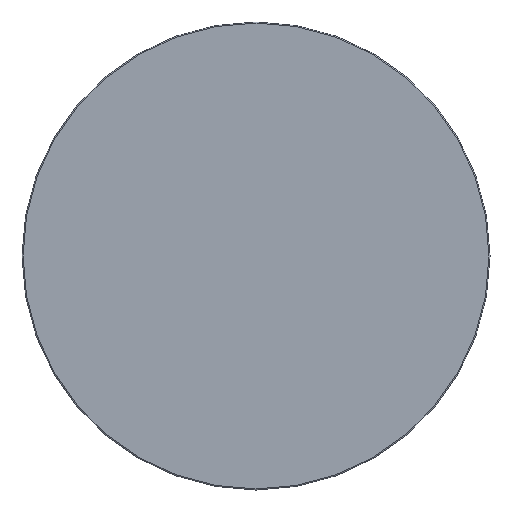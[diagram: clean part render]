
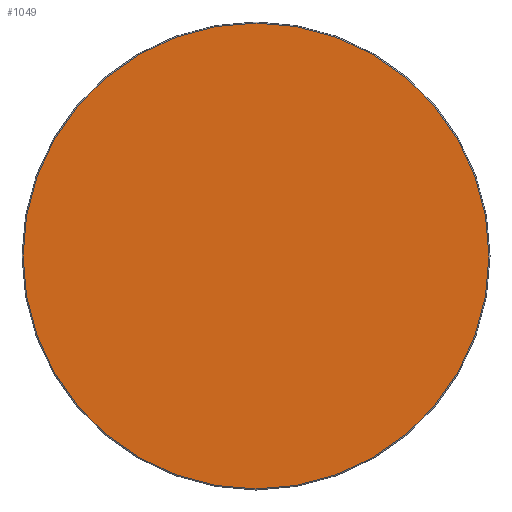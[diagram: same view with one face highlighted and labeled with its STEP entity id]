
A CAD part, left-side view. The second image highlights one B-rep face of the part: STEP entity #1049.
In plain terms, the highlighted planar face has unit normal (-1, 0, 0).
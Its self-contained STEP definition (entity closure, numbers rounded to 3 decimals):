
#1026=CARTESIAN_POINT('',(0.0,224.0,0.0));
#1027=VERTEX_POINT('',#1026);
#1028=CARTESIAN_POINT('',(0.0,0.0,0.0));
#1029=DIRECTION('',(1.0,0.0,0.0));
#1030=DIRECTION('',(0.0,-1.0,0.0));
#1031=AXIS2_PLACEMENT_3D('',#1028,#1029,#1030);
#1032=CIRCLE('',#1031,224.0);
#1033=EDGE_CURVE('',#1027,#1027,#1032,.T.);
#1041=CARTESIAN_POINT('',(0.0,170.319,0.));
#1042=DIRECTION('',(-1.0,0.0,0.0));
#1043=DIRECTION('',(0.0,0.0,1.0));
#1044=AXIS2_PLACEMENT_3D('',#1041,#1042,#1043);
#1045=PLANE('',#1044);
#1046=ORIENTED_EDGE('',*,*,#1033,.F.);
#1047=EDGE_LOOP('',(#1046));
#1048=FACE_OUTER_BOUND('',#1047,.T.);
#1049=ADVANCED_FACE('',(#1048),#1045,.T.);
